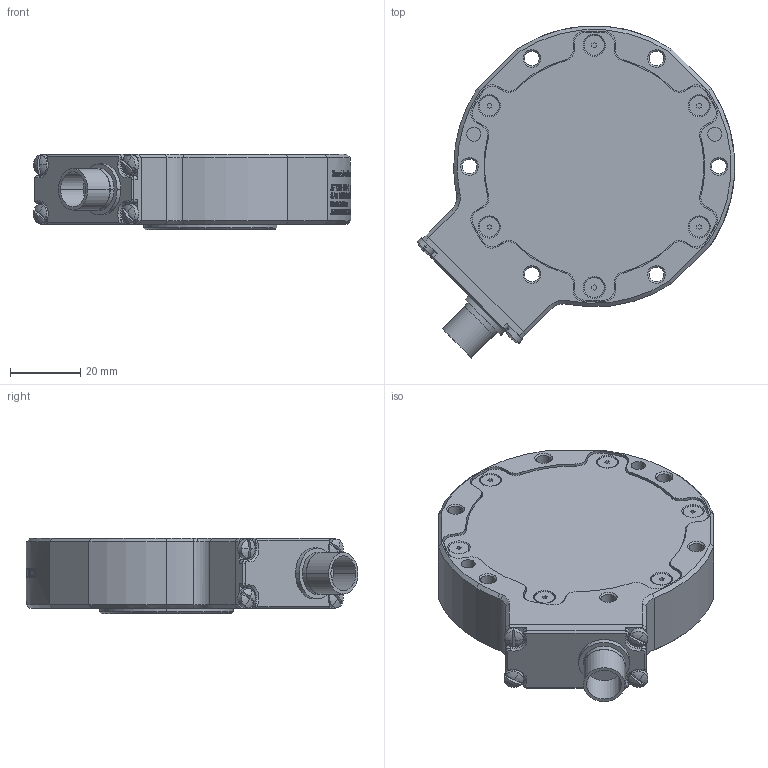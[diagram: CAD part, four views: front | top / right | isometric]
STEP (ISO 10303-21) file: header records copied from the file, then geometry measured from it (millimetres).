
FILE_DESCRIPTION (( 'STEP AP203' ), '1' );
FILE_NAME ('AFT200-D80-C_寡ん辨.STEP', '2024-08-13T01:52:01', ( '' ), ( '' ), 'SwSTEP 2.0', 'SolidWorks 2021', '' );
FILE_SCHEMA (( 'CONFIG_CONTROL_DESIGN' ));
Length unit declared in the file: millimetre
Products named in the file (10): fillister head screw_ks_KS 1021 F - M3 x 10-N; AM21AA-AFT80-A105-0; AM21AA-AFT80-A101-7_頂睡瓣遴賅筐; SZ-3N; AM21AA-AFT80-A102-3_頂睡瓣遴賅筐; AM21AA-AFT80-A103-3; FHB_M3_3; socket head cap screw_ks_KS 1003 - M3 x 10 x 10-N; G40F1C-P09MCC0; AFT200-D80-C_寡ん辨
Assembly tree (30 placements, depth 2):
  AFT200-D80-C_寡ん辨
    AM21AA-AFT80-A101-7_頂睡瓣遴賅筐
    AM21AA-AFT80-A103-3
    AM21AA-AFT80-A102-3_頂睡瓣遴賅筐
    AM21AA-AFT80-A105-0
    G40F1C-P09MCC0
    FHB_M3_3  x13
    socket head cap screw_ks_KS 1003 - M3 x 10 x 10-N  x4
    SZ-3N  x4
    fillister head screw_ks_KS 1021 F - M3 x 10-N  x4
Bounding box: 90.37 x 94.55 x 21.5 mm (x, y, z)
Volume: 118161.5 mm3; surface area: 43960.2 mm2
Topology: 30 solids, 30 shells, 2640 faces, 6844 edges, 4439 vertices
Faces by surface type: bspline 934, plane 828, cylinder 629, cone 193, torus 40, sphere 16
Entity records: 155839 total; most frequent: CARTESIAN_POINT 105384, ORIENTED_EDGE 12008, DIRECTION 7130, EDGE_CURVE 6004, VERTEX_POINT 3950, B_SPLINE_CURVE_WITH_KNOTS 2843, AXIS2_PLACEMENT_3D 2749, EDGE_LOOP 2508
